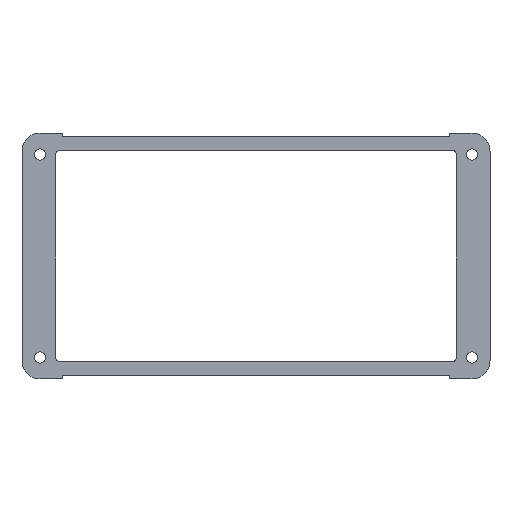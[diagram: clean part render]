
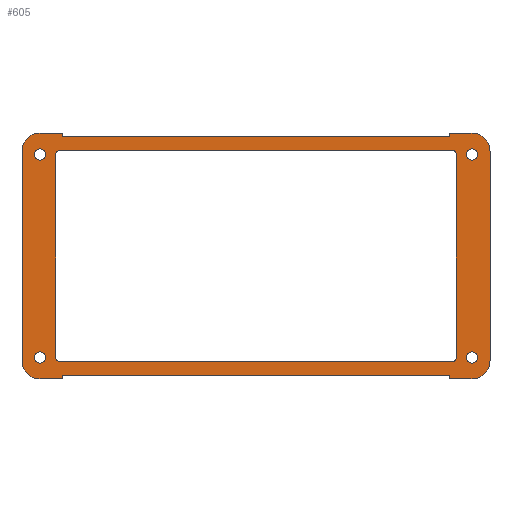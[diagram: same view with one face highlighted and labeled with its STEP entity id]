
A CAD part, top view. The second image highlights one B-rep face of the part: STEP entity #605.
In plain terms, the highlighted planar face has unit normal (0, 0, 1).
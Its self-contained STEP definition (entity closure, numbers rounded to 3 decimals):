
#15=FACE_BOUND('',#102,.T.);
#16=FACE_BOUND('',#103,.T.);
#17=FACE_BOUND('',#104,.T.);
#18=FACE_BOUND('',#105,.T.);
#19=FACE_BOUND('',#106,.T.);
#41=PLANE('',#682);
#71=FACE_OUTER_BOUND('',#101,.T.);
#101=EDGE_LOOP('',(#509,#510,#511,#512,#513,#514,#515,#516,#517,#518,#519,
#520,#521,#522,#523,#524));
#102=EDGE_LOOP('',(#525,#526,#527,#528,#529,#530,#531,#532));
#103=EDGE_LOOP('',(#533));
#104=EDGE_LOOP('',(#534));
#105=EDGE_LOOP('',(#535));
#106=EDGE_LOOP('',(#536));
#117=LINE('',#869,#177);
#120=LINE('',#880,#180);
#124=LINE('',#892,#184);
#127=LINE('',#901,#187);
#133=LINE('',#930,#193);
#137=LINE('',#938,#197);
#140=LINE('',#944,#200);
#143=LINE('',#950,#203);
#146=LINE('',#956,#206);
#150=LINE('',#968,#210);
#154=LINE('',#980,#214);
#157=LINE('',#986,#217);
#160=LINE('',#992,#220);
#163=LINE('',#998,#223);
#166=LINE('',#1004,#226);
#170=LINE('',#1016,#230);
#177=VECTOR('',#698,10.);
#180=VECTOR('',#709,10.);
#184=VECTOR('',#721,10.);
#187=VECTOR('',#732,10.);
#193=VECTOR('',#764,10.);
#197=VECTOR('',#770,10.);
#200=VECTOR('',#775,10.);
#203=VECTOR('',#780,10.);
#206=VECTOR('',#785,10.);
#210=VECTOR('',#797,10.);
#214=VECTOR('',#809,10.);
#217=VECTOR('',#814,10.);
#220=VECTOR('',#819,10.);
#223=VECTOR('',#824,10.);
#226=VECTOR('',#829,10.);
#230=VECTOR('',#841,10.);
#234=CIRCLE('',#632,1.);
#236=CIRCLE('',#636,1.);
#238=CIRCLE('',#640,1.);
#240=CIRCLE('',#644,1.);
#242=CIRCLE('',#648,1.25);
#244=CIRCLE('',#651,1.25);
#246=CIRCLE('',#654,1.25);
#248=CIRCLE('',#657,1.25);
#249=CIRCLE('',#664,4.);
#251=CIRCLE('',#668,4.);
#253=CIRCLE('',#676,4.);
#255=CIRCLE('',#680,4.);
#259=VERTEX_POINT('',#859);
#260=VERTEX_POINT('',#861);
#262=VERTEX_POINT('',#867);
#265=VERTEX_POINT('',#874);
#266=VERTEX_POINT('',#876);
#269=VERTEX_POINT('',#886);
#270=VERTEX_POINT('',#888);
#272=VERTEX_POINT('',#897);
#274=VERTEX_POINT('',#906);
#276=VERTEX_POINT('',#912);
#278=VERTEX_POINT('',#918);
#280=VERTEX_POINT('',#924);
#281=VERTEX_POINT('',#928);
#282=VERTEX_POINT('',#929);
#285=VERTEX_POINT('',#937);
#287=VERTEX_POINT('',#943);
#289=VERTEX_POINT('',#949);
#291=VERTEX_POINT('',#955);
#293=VERTEX_POINT('',#961);
#295=VERTEX_POINT('',#967);
#297=VERTEX_POINT('',#973);
#299=VERTEX_POINT('',#979);
#301=VERTEX_POINT('',#985);
#303=VERTEX_POINT('',#991);
#305=VERTEX_POINT('',#997);
#307=VERTEX_POINT('',#1003);
#309=VERTEX_POINT('',#1009);
#311=VERTEX_POINT('',#1015);
#315=EDGE_CURVE('',#259,#260,#234,.T.);
#319=EDGE_CURVE('',#259,#262,#117,.T.);
#322=EDGE_CURVE('',#265,#266,#236,.T.);
#324=EDGE_CURVE('',#265,#260,#120,.T.);
#328=EDGE_CURVE('',#269,#270,#238,.T.);
#330=EDGE_CURVE('',#269,#266,#124,.T.);
#334=EDGE_CURVE('',#272,#262,#240,.T.);
#335=EDGE_CURVE('',#272,#270,#127,.T.);
#339=EDGE_CURVE('',#274,#274,#242,.T.);
#342=EDGE_CURVE('',#276,#276,#244,.T.);
#345=EDGE_CURVE('',#278,#278,#246,.T.);
#348=EDGE_CURVE('',#280,#280,#248,.T.);
#349=EDGE_CURVE('',#281,#282,#133,.T.);
#353=EDGE_CURVE('',#282,#285,#137,.T.);
#356=EDGE_CURVE('',#285,#287,#140,.T.);
#359=EDGE_CURVE('',#287,#289,#143,.T.);
#362=EDGE_CURVE('',#289,#291,#146,.T.);
#365=EDGE_CURVE('',#291,#293,#249,.T.);
#368=EDGE_CURVE('',#293,#295,#150,.T.);
#371=EDGE_CURVE('',#295,#297,#251,.T.);
#374=EDGE_CURVE('',#297,#299,#154,.T.);
#377=EDGE_CURVE('',#299,#301,#157,.T.);
#380=EDGE_CURVE('',#301,#303,#160,.T.);
#383=EDGE_CURVE('',#303,#305,#163,.T.);
#386=EDGE_CURVE('',#305,#307,#166,.T.);
#389=EDGE_CURVE('',#307,#309,#253,.T.);
#392=EDGE_CURVE('',#309,#311,#170,.T.);
#395=EDGE_CURVE('',#311,#281,#255,.T.);
#509=ORIENTED_EDGE('',*,*,#349,.F.);
#510=ORIENTED_EDGE('',*,*,#395,.F.);
#511=ORIENTED_EDGE('',*,*,#392,.F.);
#512=ORIENTED_EDGE('',*,*,#389,.F.);
#513=ORIENTED_EDGE('',*,*,#386,.F.);
#514=ORIENTED_EDGE('',*,*,#383,.F.);
#515=ORIENTED_EDGE('',*,*,#380,.F.);
#516=ORIENTED_EDGE('',*,*,#377,.F.);
#517=ORIENTED_EDGE('',*,*,#374,.F.);
#518=ORIENTED_EDGE('',*,*,#371,.F.);
#519=ORIENTED_EDGE('',*,*,#368,.F.);
#520=ORIENTED_EDGE('',*,*,#365,.F.);
#521=ORIENTED_EDGE('',*,*,#362,.F.);
#522=ORIENTED_EDGE('',*,*,#359,.F.);
#523=ORIENTED_EDGE('',*,*,#356,.F.);
#524=ORIENTED_EDGE('',*,*,#353,.F.);
#525=ORIENTED_EDGE('',*,*,#335,.T.);
#526=ORIENTED_EDGE('',*,*,#328,.F.);
#527=ORIENTED_EDGE('',*,*,#330,.T.);
#528=ORIENTED_EDGE('',*,*,#322,.F.);
#529=ORIENTED_EDGE('',*,*,#324,.T.);
#530=ORIENTED_EDGE('',*,*,#315,.F.);
#531=ORIENTED_EDGE('',*,*,#319,.T.);
#532=ORIENTED_EDGE('',*,*,#334,.F.);
#533=ORIENTED_EDGE('',*,*,#339,.T.);
#534=ORIENTED_EDGE('',*,*,#342,.T.);
#535=ORIENTED_EDGE('',*,*,#345,.T.);
#536=ORIENTED_EDGE('',*,*,#348,.T.);
#605=ADVANCED_FACE('',(#71,#15,#16,#17,#18,#19),#41,.T.);
#632=AXIS2_PLACEMENT_3D('',#862,#691,#692);
#636=AXIS2_PLACEMENT_3D('',#877,#704,#705);
#640=AXIS2_PLACEMENT_3D('',#889,#716,#717);
#644=AXIS2_PLACEMENT_3D('',#899,#728,#729);
#648=AXIS2_PLACEMENT_3D('',#908,#739,#740);
#651=AXIS2_PLACEMENT_3D('',#914,#746,#747);
#654=AXIS2_PLACEMENT_3D('',#920,#753,#754);
#657=AXIS2_PLACEMENT_3D('',#926,#760,#761);
#664=AXIS2_PLACEMENT_3D('',#962,#790,#791);
#668=AXIS2_PLACEMENT_3D('',#974,#802,#803);
#676=AXIS2_PLACEMENT_3D('',#1010,#834,#835);
#680=AXIS2_PLACEMENT_3D('',#1021,#846,#847);
#682=AXIS2_PLACEMENT_3D('',#1023,#850,#851);
#691=DIRECTION('center_axis',(0.,0.,1.));
#692=DIRECTION('ref_axis',(-0.707,-0.707,0.));
#698=DIRECTION('',(0.,1.,0.));
#704=DIRECTION('center_axis',(0.,0.,1.));
#705=DIRECTION('ref_axis',(0.707,-0.707,0.));
#709=DIRECTION('',(-1.,0.,0.));
#716=DIRECTION('center_axis',(0.,0.,1.));
#717=DIRECTION('ref_axis',(0.707,0.707,0.));
#721=DIRECTION('',(0.,-1.,0.));
#728=DIRECTION('center_axis',(0.,0.,1.));
#729=DIRECTION('ref_axis',(-0.707,0.707,0.));
#732=DIRECTION('',(1.,0.,0.));
#739=DIRECTION('center_axis',(0.,0.,-1.));
#740=DIRECTION('ref_axis',(-1.,0.,0.));
#746=DIRECTION('center_axis',(0.,0.,-1.));
#747=DIRECTION('ref_axis',(-1.,0.,0.));
#753=DIRECTION('center_axis',(0.,0.,-1.));
#754=DIRECTION('ref_axis',(-1.,0.,0.));
#760=DIRECTION('center_axis',(0.,0.,-1.));
#761=DIRECTION('ref_axis',(-1.,0.,0.));
#764=DIRECTION('',(-1.,0.,0.));
#770=DIRECTION('',(0.,1.,0.));
#775=DIRECTION('',(-1.,0.,0.));
#780=DIRECTION('',(0.,-1.,0.));
#785=DIRECTION('',(-1.,0.,0.));
#790=DIRECTION('center_axis',(0.,0.,-1.));
#791=DIRECTION('ref_axis',(1.,0.,0.));
#797=DIRECTION('',(0.,1.,0.));
#802=DIRECTION('center_axis',(0.,0.,-1.));
#803=DIRECTION('ref_axis',(0.,-1.,0.));
#809=DIRECTION('',(1.,0.,0.));
#814=DIRECTION('',(0.,-1.,0.));
#819=DIRECTION('',(1.,0.,0.));
#824=DIRECTION('',(0.,1.,0.));
#829=DIRECTION('',(1.,0.,0.));
#834=DIRECTION('center_axis',(0.,0.,-1.));
#835=DIRECTION('ref_axis',(-1.,0.,0.));
#841=DIRECTION('',(0.,-1.,0.));
#846=DIRECTION('center_axis',(0.,0.,-1.));
#847=DIRECTION('ref_axis',(0.,1.,0.));
#850=DIRECTION('center_axis',(0.,0.,1.));
#851=DIRECTION('ref_axis',(1.,0.,0.));
#859=CARTESIAN_POINT('',(-44.5,-22.55,1.575));
#861=CARTESIAN_POINT('',(-43.5,-23.55,1.575));
#862=CARTESIAN_POINT('Origin',(-43.5,-22.55,1.575));
#867=CARTESIAN_POINT('',(-44.5,22.55,1.575));
#869=CARTESIAN_POINT('',(-44.5,-11.775,1.575));
#874=CARTESIAN_POINT('',(43.5,-23.55,1.575));
#876=CARTESIAN_POINT('',(44.5,-22.55,1.575));
#877=CARTESIAN_POINT('Origin',(43.5,-22.55,1.575));
#880=CARTESIAN_POINT('',(22.25,-23.55,1.575));
#886=CARTESIAN_POINT('',(44.5,22.55,1.575));
#888=CARTESIAN_POINT('',(43.5,23.55,1.575));
#889=CARTESIAN_POINT('Origin',(43.5,22.55,1.575));
#892=CARTESIAN_POINT('',(44.5,11.775,1.575));
#897=CARTESIAN_POINT('',(-43.5,23.55,1.575));
#899=CARTESIAN_POINT('Origin',(-43.5,22.55,1.575));
#901=CARTESIAN_POINT('',(-22.25,23.55,1.575));
#906=CARTESIAN_POINT('',(49.25,22.55,1.575));
#908=CARTESIAN_POINT('Origin',(48.,22.55,1.575));
#912=CARTESIAN_POINT('',(49.25,-22.55,1.575));
#914=CARTESIAN_POINT('Origin',(48.,-22.55,1.575));
#918=CARTESIAN_POINT('',(-46.75,-22.55,1.575));
#920=CARTESIAN_POINT('Origin',(-48.,-22.55,1.575));
#924=CARTESIAN_POINT('',(-46.75,22.55,1.575));
#926=CARTESIAN_POINT('Origin',(-48.,22.55,1.575));
#928=CARTESIAN_POINT('',(48.,-27.3,1.575));
#929=CARTESIAN_POINT('',(43.,-27.3,1.575));
#930=CARTESIAN_POINT('',(48.,-27.3,1.575));
#937=CARTESIAN_POINT('',(43.,-26.55,1.575));
#938=CARTESIAN_POINT('',(43.,-27.3,1.575));
#943=CARTESIAN_POINT('',(-43.,-26.55,1.575));
#944=CARTESIAN_POINT('',(43.,-26.55,1.575));
#949=CARTESIAN_POINT('',(-43.,-27.3,1.575));
#950=CARTESIAN_POINT('',(-43.,-26.55,1.575));
#955=CARTESIAN_POINT('',(-48.,-27.3,1.575));
#956=CARTESIAN_POINT('',(-43.,-27.3,1.575));
#961=CARTESIAN_POINT('',(-52.,-23.3,1.575));
#962=CARTESIAN_POINT('Origin',(-48.,-23.3,1.575));
#967=CARTESIAN_POINT('',(-52.,23.3,1.575));
#968=CARTESIAN_POINT('',(-52.,-23.3,1.575));
#973=CARTESIAN_POINT('',(-48.,27.3,1.575));
#974=CARTESIAN_POINT('Origin',(-48.,23.3,1.575));
#979=CARTESIAN_POINT('',(-43.,27.3,1.575));
#980=CARTESIAN_POINT('',(-48.,27.3,1.575));
#985=CARTESIAN_POINT('',(-43.,26.55,1.575));
#986=CARTESIAN_POINT('',(-43.,27.3,1.575));
#991=CARTESIAN_POINT('',(43.,26.55,1.575));
#992=CARTESIAN_POINT('',(-43.,26.55,1.575));
#997=CARTESIAN_POINT('',(43.,27.3,1.575));
#998=CARTESIAN_POINT('',(43.,26.55,1.575));
#1003=CARTESIAN_POINT('',(48.,27.3,1.575));
#1004=CARTESIAN_POINT('',(43.,27.3,1.575));
#1009=CARTESIAN_POINT('',(52.,23.3,1.575));
#1010=CARTESIAN_POINT('Origin',(48.,23.3,1.575));
#1015=CARTESIAN_POINT('',(52.,-23.3,1.575));
#1016=CARTESIAN_POINT('',(52.,23.3,1.575));
#1021=CARTESIAN_POINT('Origin',(48.,-23.3,1.575));
#1023=CARTESIAN_POINT('Origin',(0.,0.,
1.575));
